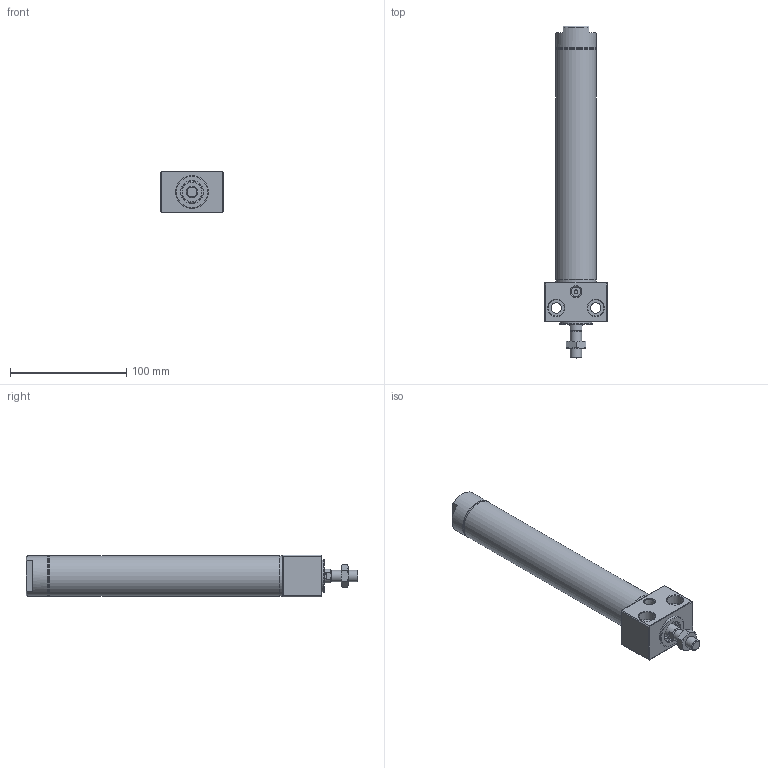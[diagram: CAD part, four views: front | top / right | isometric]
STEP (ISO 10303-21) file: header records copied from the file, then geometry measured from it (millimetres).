
FILE_DESCRIPTION((''),'2;1');
FILE_NAME('I:\3D電子目錄\氣缸\DBS\DBS\DBS30x150.stp','2007-10-08T08:43:24',('Administrator'),(''),'Autodesk Inventor 2008','Autodesk Inventor 2008','');
FILE_SCHEMA(('AUTOMOTIVE_DESIGN { 1 0 10303 214 1 1 1 1 }'));
Length unit declared in the file: millimetre
Products named in the file (1): DBS30x150
Bounding box: 54 x 285.6 x 36 mm (x, y, z)
Volume: 157283.7 mm3; surface area: 72938.6 mm2
Topology: 6 solids, 6 shells, 166 faces, 329 edges, 198 vertices
Faces by surface type: plane 75, cone 41, cylinder 35, bspline 12, torus 3
Full cylindrical faces by diameter (mm): 3 x1, 6.5 x1, 8 x1, 9 x1, 10 x2, 12 x1, 12.5 x1, 14 x1, 16 x1, 17 x2, 20 x2, 21 x3, 24 x2, 28 x3, 28.5 x2, 30 x1, 32.2 x6, 35 x4
Entity records: 4070 total; most frequent: CARTESIAN_POINT 931, DIRECTION 660, ORIENTED_EDGE 504, AXIS2_PLACEMENT_3D 289, EDGE_LOOP 278, EDGE_CURVE 252, VERTEX_POINT 192, FACE_OUTER_BOUND 166
